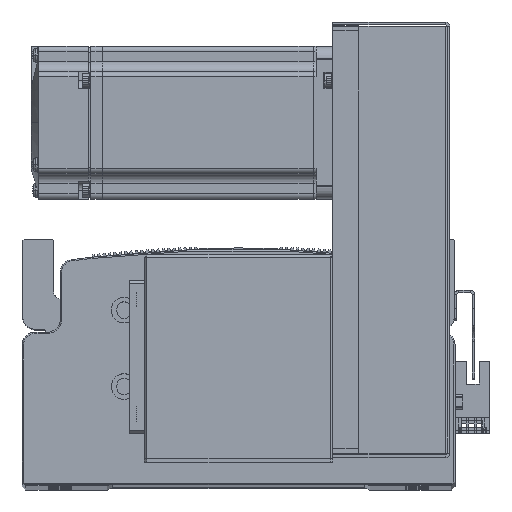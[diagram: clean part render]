
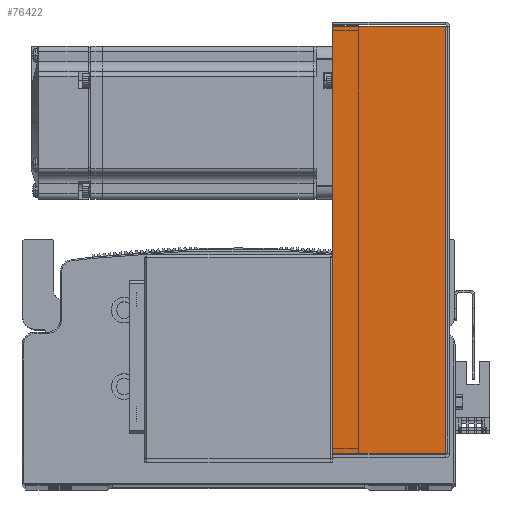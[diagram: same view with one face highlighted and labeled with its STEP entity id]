
A CAD part, top view. The second image highlights one B-rep face of the part: STEP entity #76422.
In plain terms, the highlighted planar face has unit normal (0, 0, 1).
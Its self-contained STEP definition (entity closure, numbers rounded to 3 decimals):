
#1355 = DIRECTION ( 'NONE',  ( -1., 0., 0. ) ) ;
#1359 = CARTESIAN_POINT ( 'NONE',  ( -84.5, 45., 40.5 ) ) ;
#1385 = LINE ( 'NONE', #7709, #1417 ) ;
#1417 = VECTOR ( 'NONE', #7772, 1000. ) ;
#1418 = VECTOR ( 'NONE', #7727, 1000. ) ;
#1437 = VECTOR ( 'NONE', #1355, 1000. ) ;
#1458 = LINE ( 'NONE', #7767, #1418 ) ;
#1485 = LINE ( 'NONE', #1359, #1437 ) ;
#1504 = LINE ( 'NONE', #1582, #1596 ) ;
#1554 = DIRECTION ( 'NONE',  ( -1., 0., 0. ) ) ;
#1582 = CARTESIAN_POINT ( 'NONE',  ( 0., 0.737, 40.5 ) ) ;
#1596 = VECTOR ( 'NONE', #1554, 1000. ) ;
#2854 = DIRECTION ( 'NONE',  ( 0., 0., -1. ) ) ;
#2905 = PLANE ( 'NONE',  #61985 ) ;
#2926 = CARTESIAN_POINT ( 'NONE',  ( 0., 0., 40.5 ) ) ;
#2929 = DIRECTION ( 'NONE',  ( -1., 0., 0. ) ) ;
#5433 = EDGE_LOOP ( 'NONE', ( #23199, #23255, #23210, #23244 ) ) ;
#7709 = CARTESIAN_POINT ( 'NONE',  ( -83.793, 0., 40.5 ) ) ;
#7727 = DIRECTION ( 'NONE',  ( 0., 1., 0. ) ) ;
#7767 = CARTESIAN_POINT ( 'NONE',  ( 83.793, 0., 40.5 ) ) ;
#7772 = DIRECTION ( 'NONE',  ( 0., 1., 0. ) ) ;
#8745 = FACE_OUTER_BOUND ( 'NONE', #5433, .T. ) ;
#20383 = CARTESIAN_POINT ( 'NONE',  ( -83.793, 45., 40.5 ) ) ;
#20424 = CARTESIAN_POINT ( 'NONE',  ( 83.793, 0.737, 40.5 ) ) ;
#20453 = CARTESIAN_POINT ( 'NONE',  ( -83.793, 0.737, 40.5 ) ) ;
#20457 = CARTESIAN_POINT ( 'NONE',  ( 83.793, 45., 40.5 ) ) ;
#23199 = ORIENTED_EDGE ( 'NONE', *, *, #67428, .F. ) ;
#23210 = ORIENTED_EDGE ( 'NONE', *, *, #67355, .T. ) ;
#23244 = ORIENTED_EDGE ( 'NONE', *, *, #67344, .F. ) ;
#23255 = ORIENTED_EDGE ( 'NONE', *, *, #67331, .T. ) ;
#61985 = AXIS2_PLACEMENT_3D ( 'NONE', #2926, #2854, #2929 ) ;
#67331 = EDGE_CURVE ( 'NONE', #69658, #69698, #1458, .T. ) ;
#67344 = EDGE_CURVE ( 'NONE', #69686, #69655, #1385, .T. ) ;
#67355 = EDGE_CURVE ( 'NONE', #69698, #69655, #1485, .T. ) ;
#67428 = EDGE_CURVE ( 'NONE', #69658, #69686, #1504, .T. ) ;
#69655 = VERTEX_POINT ( 'NONE', #20383 ) ;
#69658 = VERTEX_POINT ( 'NONE', #20424 ) ;
#69686 = VERTEX_POINT ( 'NONE', #20453 ) ;
#69698 = VERTEX_POINT ( 'NONE', #20457 ) ;
#76422 = ADVANCED_FACE ( 'NONE', ( #8745 ), #2905, .F. ) ;
